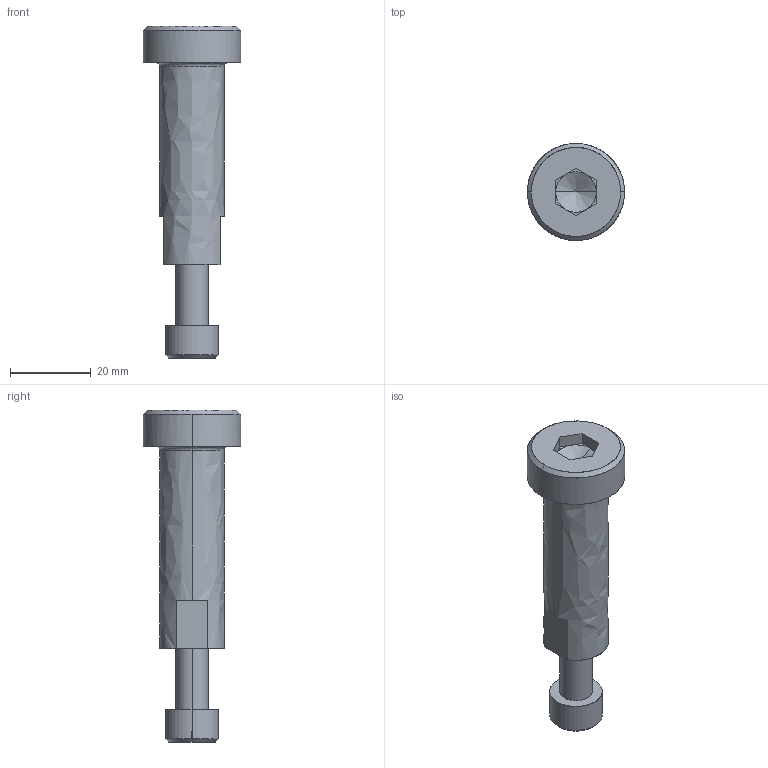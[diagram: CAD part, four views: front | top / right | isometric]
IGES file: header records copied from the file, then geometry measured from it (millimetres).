
Global section: file name: E:\UnigraphicsGraphicData\MISUMI_PRESS-PARTS\IGES\3d_sbtl16-50-30_05171_r00.igs; native system: NX V5.0; preprocessor: UGS NX IGES V5.0; author: MISUMI; date: 20110105.162504; units: millimetre
Bounding box: 24 x 24 x 82 mm (x, y, z)
Surface area: 6139.4 mm2 (no closed solid volume)
Topology: 0 solids, 0 shells, 54 faces, 302 edges, 298 vertices
Faces by surface type: bspline 54
